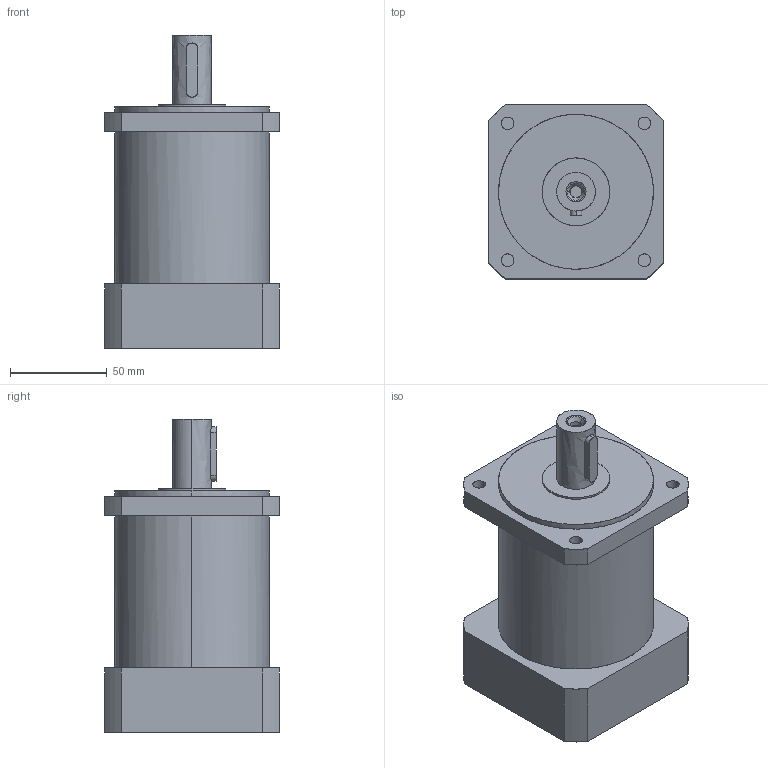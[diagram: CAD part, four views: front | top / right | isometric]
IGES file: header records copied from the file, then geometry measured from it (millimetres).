
Start section: Parasolid data in IGES format
Global section: file name: PLE80-90_2.igs; native system: Parasolid(11.0); preprocessor: Pariges 3.0; author: noname; organization: noname; date: 19991109.083409; units: millimetre
Bounding box: 90 x 90 x 162 mm (x, y, z)
Surface area: 64091.5 mm2 (no closed solid volume)
Topology: 0 solids, 0 shells, 74 faces, 1027 edges, 1027 vertices
Faces by surface type: bspline 74
